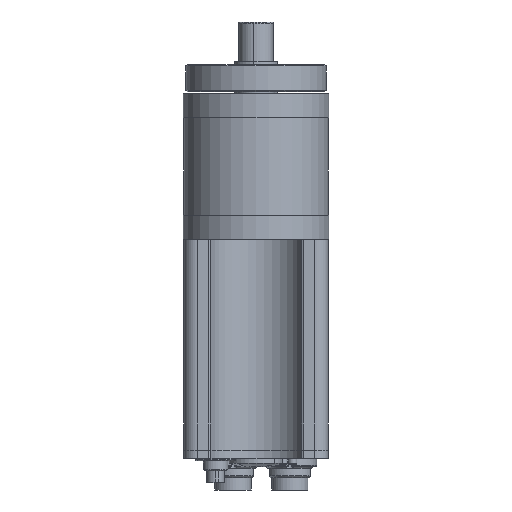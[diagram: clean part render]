
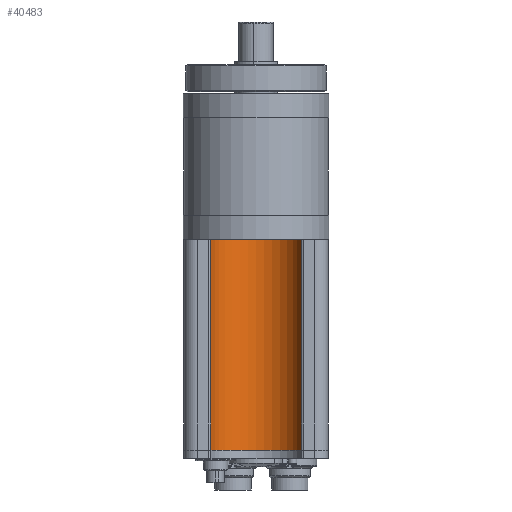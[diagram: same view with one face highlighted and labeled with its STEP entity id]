
A CAD part, front view. The second image highlights one B-rep face of the part: STEP entity #40483.
In plain terms, the highlighted cylindrical face has radius 18 mm (diameter 36 mm), a partial arc.
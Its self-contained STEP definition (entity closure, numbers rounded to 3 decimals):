
#342 = VERTEX_POINT ( 'NONE', #47300 ) ;
#39986 = VERTEX_POINT ( 'NONE', #66728 ) ;
#40250 = ORIENTED_EDGE ( 'NONE', *, *, #40480, .F. ) ;
#40252 = VERTEX_POINT ( 'NONE', #67180 ) ;
#40349 = VERTEX_POINT ( 'NONE', #67307 ) ;
#40388 = ORIENTED_EDGE ( 'NONE', *, *, #40390, .T. ) ;
#40390 = EDGE_CURVE ( 'NONE', #40349, #40252, #67335, .T. ) ;
#40401 = EDGE_LOOP ( 'NONE', ( #40426, #40250, #40388, #40408 ) ) ;
#40408 = ORIENTED_EDGE ( 'NONE', *, *, #40412, .T. ) ;
#40412 = EDGE_CURVE ( 'NONE', #40252, #342, #67372, .T. ) ;
#40426 = ORIENTED_EDGE ( 'NONE', *, *, #40430, .F. ) ;
#40430 = EDGE_CURVE ( 'NONE', #39986, #342, #67357, .T. ) ;
#40480 = EDGE_CURVE ( 'NONE', #40349, #39986, #67413, .T. ) ;
#40483 = ADVANCED_FACE ( 'NONE', ( #67408 ), #67407, .F. ) ;
#47300 = CARTESIAN_POINT ( 'NONE',  ( 16.734, 6.632, -9. ) ) ;
#66728 = CARTESIAN_POINT ( 'NONE',  ( -16.734, 6.632, -9. ) ) ;
#67180 = CARTESIAN_POINT ( 'NONE',  ( 16.734, 6.632, -87.2 ) ) ;
#67307 = CARTESIAN_POINT ( 'NONE',  ( -16.734, 6.632, -87.2 ) ) ;
#67323 = DIRECTION ( 'NONE',  ( -1., 0., 0. ) ) ;
#67324 = DIRECTION ( 'NONE',  ( 0., 0., -1. ) ) ;
#67325 = CARTESIAN_POINT ( 'NONE',  ( 0., 0., -87.2 ) ) ;
#67326 = AXIS2_PLACEMENT_3D ( 'NONE', #67325, #67324, #67323 ) ;
#67335 = CIRCLE ( 'NONE', #67326, 18. ) ;
#67353 = DIRECTION ( 'NONE',  ( -1., 0., 0. ) ) ;
#67354 = DIRECTION ( 'NONE',  ( 0., 0., -1. ) ) ;
#67355 = CARTESIAN_POINT ( 'NONE',  ( 0., 0., -9. ) ) ;
#67356 = AXIS2_PLACEMENT_3D ( 'NONE', #67355, #67354, #67353 ) ;
#67357 = CIRCLE ( 'NONE', #67356, 18. ) ;
#67369 = DIRECTION ( 'NONE',  ( 0., 0., 1. ) ) ;
#67370 = VECTOR ( 'NONE', #67369, 1000. ) ;
#67371 = CARTESIAN_POINT ( 'NONE',  ( 16.734, 6.632, -87.2 ) ) ;
#67372 = LINE ( 'NONE', #67371, #67370 ) ;
#67407 = CYLINDRICAL_SURFACE ( 'NONE', #67409, 18. ) ;
#67408 = FACE_OUTER_BOUND ( 'NONE', #40401, .T. ) ;
#67409 = AXIS2_PLACEMENT_3D ( 'NONE', #67464, #67463, #67462 ) ;
#67410 = DIRECTION ( 'NONE',  ( 0., 0., 1. ) ) ;
#67411 = VECTOR ( 'NONE', #67410, 1000. ) ;
#67412 = CARTESIAN_POINT ( 'NONE',  ( -16.734, 6.632, -87.2 ) ) ;
#67413 = LINE ( 'NONE', #67412, #67411 ) ;
#67462 = DIRECTION ( 'NONE',  ( 1., 0., 0. ) ) ;
#67463 = DIRECTION ( 'NONE',  ( 0., 0., 1. ) ) ;
#67464 = CARTESIAN_POINT ( 'NONE',  ( 0., 0., -87.2 ) ) ;
